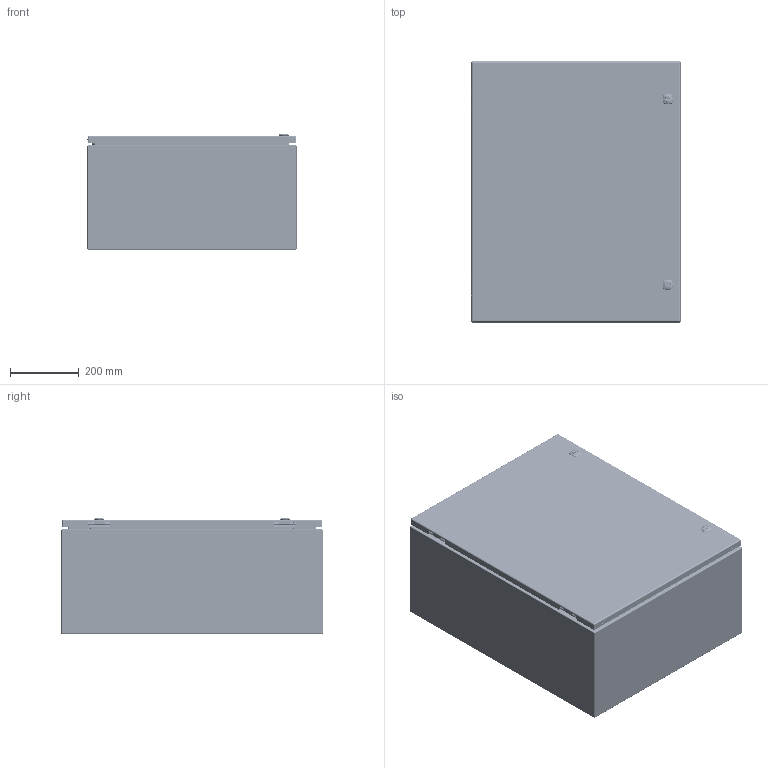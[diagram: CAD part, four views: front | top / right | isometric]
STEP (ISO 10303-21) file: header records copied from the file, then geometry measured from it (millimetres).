
FILE_DESCRIPTION(/* description */ ('5412ES 30" x 24" x 12" Assembly'),/* implementation_level */ '2;1');
FILE_NAME(/* name */ 'C:\Vault_Workspace\Inventor_Dwg\BoxCad\Result\5412ESB302412\e-mail\3D\5412ESB302412.stp',/* time_stamp */ '2022-03-17T15:27:46-04:00',/* author */ ('BoxCad'),/* organization */ (''),/* preprocessor_version */ 'ST-DEVELOPER v18.1',/* originating_system */ 'Autodesk Inventor 2020',/* authorisation */ '');
FILE_SCHEMA (('AUTOMOTIVE_DESIGN { 1 0 10303 214 3 1 1 }'));
Products named in the file (44): 5412ESB302412; 5412ESB302412B; 5412ESB302412B-P; STK-Q-16005; STUD_M6 x 16mm; STK-Q-07610; 881SP3024G; 881SP3024G-P; STK-Q-07310; 5412ESB302412C; 5412ESB302412C-P; 5412ESB302412G; STK-K-09800; STK-K-09800-2; STK-Q-33014; STK-Q-90398; STK-Q-40095; STK-Q-63410; STK-Q-16055; STK-Q-46020-30; STK-Q-07220-1; STK-Q-07220-2; STK-Q-07220-3; STK-Q-07220-4; STK-Q-07220-A; STK-Q-07220-B; STK-P-03820R; STK-S-00100; STK-A-880SCQ4-SL-1; STK-A-880SCQ4-SL-2; STK-Q-78110; STK-Q-78120; STK-Q-78145; STK-Q-03200; STK-Q-78125; STK-Q-78141; STK-Q-90390; STK-Q-78160; STK-Q-04050-07; STK-Q-04050-07-2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
Assembly tree (81 placements, depth 4):
  5412ESB302412
    5412ESB302412B
      5412ESB302412B-P
      STK-Q-16005  x4
      STK-P-03820R
      STUD_M6 x 16mm
    STK-Q-07610  x4
    881SP3024G
      881SP3024G-P
    STK-Q-07310  x4
    5412ESB302412C
      5412ESB302412C-P
      5412ESB302412G
      STK-K-09800
        STK-Q-33014
        STK-Q-90398
        STK-Q-40095  x2
        STK-Q-63410  x2
      STK-K-09800-2
        STK-Q-33014
        STK-Q-90398
        STK-Q-40095  x2
        STK-Q-63410  x2
      STK-Q-16055  x4
      STK-Q-46020-30  x2
      STK-Q-07220-1
        STK-Q-07220-A
        STK-Q-07220-B
      STK-Q-07220-2
        STK-Q-07220-A
        STK-Q-07220-B
      STK-Q-07220-3
        STK-Q-07220-A
        STK-Q-07220-B
      STK-Q-07220-4
        STK-Q-07220-A
        STK-Q-07220-B
      STK-P-03820R
      STK-S-00100
      STK-A-880SCQ4-SL-1
        STK-Q-78110
        STK-Q-78120
        STK-Q-78145
        STK-Q-03200
        STK-Q-78125
        STK-Q-78141
        STK-Q-90390
        STK-Q-78160
      STK-A-880SCQ4-SL-2
        STK-Q-78110
        STK-Q-78120
        STK-Q-78145
        STK-Q-03200
        STK-Q-78125
        STK-Q-78141
        STK-Q-90390
        STK-Q-78160
    STK-Q-04050-07
      STK-Q-04050-07-P
      STK-Q-04050-N
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Bounding box: 609.67 x 762 x 337.95 mm (x, y, z)
Volume: 3976119.7 mm3; surface area: 4978456.9 mm2
Topology: 64 solids, 64 shells, 9708 faces, 26028 edges, 16529 vertices
Faces by surface type: bspline 3404, plane 2773, cylinder 2516, torus 655, sphere 184, cone 176
Full cylindrical faces by diameter (mm): 0 x1, 0.75 x9, 0.762 x9, 1 x8, 1.1 x8, 3.2 x4, 4.191 x52, 4.5 x4, 4.521 x8, 4.75 x2, 4.85 x16, 4.95 x4, 5 x4, 5.1 x36, 5.156 x4, 5.6 x2, 5.9 x29, 6.015 x52, 6.65 x4, 6.8 x4, 6.85 x16, 7.112 x4, 7.3 x2, 7.366 x4, 7.9 x4, 8 x12, 8.382 x2, 9.5 x4, 9.6 x2, 9.906 x4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
Entity records: 155648 total; most frequent: CARTESIAN_POINT 63990, ORIENTED_EDGE 20942, DIRECTION 15297, EDGE_CURVE 10471, VERTEX_POINT 6631, AXIS2_PLACEMENT_3D 5626, EDGE_LOOP 4286, LINE 4045
